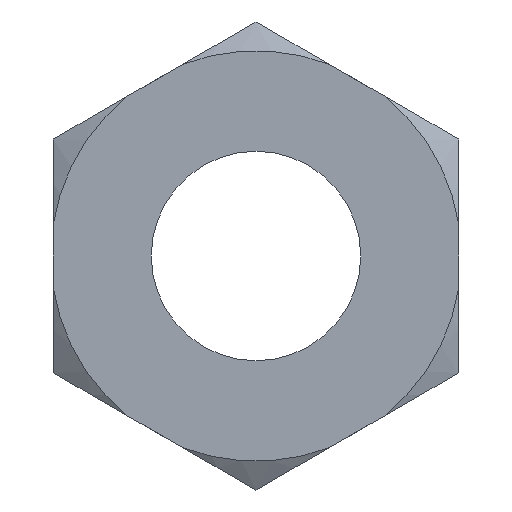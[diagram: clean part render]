
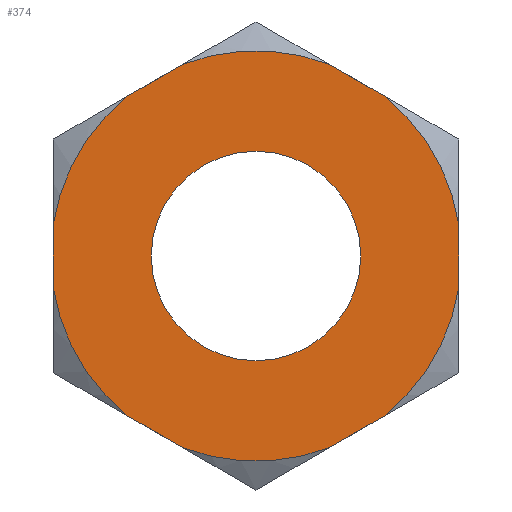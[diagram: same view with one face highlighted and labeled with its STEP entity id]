
A CAD part, left-side view. The second image highlights one B-rep face of the part: STEP entity #374.
In plain terms, the highlighted planar face has unit normal (-1, 0, 0).
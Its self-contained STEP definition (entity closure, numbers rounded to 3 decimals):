
#157=CARTESIAN_POINT('Vertex',(0.,2.067,0.)) ;
#164=CARTESIAN_POINT('Vertex',(0.,-2.067,0.)) ;
#167=CARTESIAN_POINT('Axis2P3D Location',(0.,0.,0.)) ;
#179=CARTESIAN_POINT('Axis2P3D Location',(0.,0.,0.)) ;
#267=CARTESIAN_POINT('Axis2P3D Location',(0.,0.,0.)) ;
#272=CARTESIAN_POINT('Line Origine',(0.,4.,0.)) ;
#276=CARTESIAN_POINT('Vertex',(0.,4.,-0.634)) ;
#278=CARTESIAN_POINT('Vertex',(0.,4.,0.634)) ;
#281=CARTESIAN_POINT('Axis2P3D Location',(0.,0.,0.)) ;
#285=CARTESIAN_POINT('Vertex',(0.,2.549,-3.147)) ;
#288=CARTESIAN_POINT('Line Origine',(0.,2.,-3.464)) ;
#292=CARTESIAN_POINT('Vertex',(0.,1.451,-3.781)) ;
#295=CARTESIAN_POINT('Axis2P3D Location',(0.,0.,0.)) ;
#299=CARTESIAN_POINT('Vertex',(0.,-1.451,-3.781)) ;
#302=CARTESIAN_POINT('Line Origine',(0.,-2.,-3.464)) ;
#306=CARTESIAN_POINT('Vertex',(0.,-2.549,-3.147)) ;
#309=CARTESIAN_POINT('Axis2P3D Location',(0.,0.,0.)) ;
#313=CARTESIAN_POINT('Vertex',(0.,-4.,-0.634)) ;
#316=CARTESIAN_POINT('Line Origine',(0.,-4.,0.)) ;
#320=CARTESIAN_POINT('Vertex',(0.,-4.,0.634)) ;
#323=CARTESIAN_POINT('Axis2P3D Location',(0.,0.,0.)) ;
#327=CARTESIAN_POINT('Vertex',(0.,-2.549,3.147)) ;
#330=CARTESIAN_POINT('Line Origine',(0.,-2.,3.464)) ;
#334=CARTESIAN_POINT('Vertex',(0.,-1.451,3.781)) ;
#337=CARTESIAN_POINT('Axis2P3D Location',(0.,0.,0.)) ;
#341=CARTESIAN_POINT('Vertex',(0.,1.451,3.781)) ;
#344=CARTESIAN_POINT('Line Origine',(0.,2.,3.464)) ;
#348=CARTESIAN_POINT('Vertex',(0.,2.549,3.147)) ;
#351=CARTESIAN_POINT('Axis2P3D Location',(0.,0.,0.)) ;
#274=VECTOR('Line Direction',#273,1.) ;
#290=VECTOR('Line Direction',#289,1.) ;
#304=VECTOR('Line Direction',#303,1.) ;
#318=VECTOR('Line Direction',#317,1.) ;
#332=VECTOR('Line Direction',#331,1.) ;
#346=VECTOR('Line Direction',#345,1.) ;
#168=DIRECTION('Axis2P3D Direction',(1.,0.,0.)) ;
#180=DIRECTION('Axis2P3D Direction',(1.,0.,0.)) ;
#268=DIRECTION('Axis2P3D Direction',(1.,0.,0.)) ;
#269=DIRECTION('Axis2P3D XDirection',(0.,1.,0.)) ;
#273=DIRECTION('Vector Direction',(0.,0.,1.)) ;
#282=DIRECTION('Axis2P3D Direction',(1.,0.,0.)) ;
#289=DIRECTION('Vector Direction',(0.,0.866,0.5)) ;
#296=DIRECTION('Axis2P3D Direction',(1.,0.,0.)) ;
#303=DIRECTION('Vector Direction',(0.,0.866,-0.5)) ;
#310=DIRECTION('Axis2P3D Direction',(1.,0.,0.)) ;
#317=DIRECTION('Vector Direction',(0.,0.,-1.)) ;
#324=DIRECTION('Axis2P3D Direction',(1.,0.,0.)) ;
#331=DIRECTION('Vector Direction',(0.,-0.866,-0.5)) ;
#338=DIRECTION('Axis2P3D Direction',(1.,0.,0.)) ;
#345=DIRECTION('Vector Direction',(0.,-0.866,0.5)) ;
#352=DIRECTION('Axis2P3D Direction',(1.,0.,0.)) ;
#169=AXIS2_PLACEMENT_3D('Circle Axis2P3D',#167,#168,$) ;
#181=AXIS2_PLACEMENT_3D('Circle Axis2P3D',#179,#180,$) ;
#270=AXIS2_PLACEMENT_3D('Plane Axis2P3D',#267,#268,#269) ;
#283=AXIS2_PLACEMENT_3D('Circle Axis2P3D',#281,#282,$) ;
#297=AXIS2_PLACEMENT_3D('Circle Axis2P3D',#295,#296,$) ;
#311=AXIS2_PLACEMENT_3D('Circle Axis2P3D',#309,#310,$) ;
#325=AXIS2_PLACEMENT_3D('Circle Axis2P3D',#323,#324,$) ;
#339=AXIS2_PLACEMENT_3D('Circle Axis2P3D',#337,#338,$) ;
#353=AXIS2_PLACEMENT_3D('Circle Axis2P3D',#351,#352,$) ;
#275=LINE('Line',#272,#274) ;
#291=LINE('Line',#288,#290) ;
#305=LINE('Line',#302,#304) ;
#319=LINE('Line',#316,#318) ;
#333=LINE('Line',#330,#332) ;
#347=LINE('Line',#344,#346) ;
#170=CIRCLE('generated circle',#169,2.067) ;
#182=CIRCLE('generated circle',#181,2.067) ;
#284=CIRCLE('generated circle',#283,4.05) ;
#298=CIRCLE('generated circle',#297,4.05) ;
#312=CIRCLE('generated circle',#311,4.05) ;
#326=CIRCLE('generated circle',#325,4.05) ;
#340=CIRCLE('generated circle',#339,4.05) ;
#354=CIRCLE('generated circle',#353,4.05) ;
#271=PLANE('',#270) ;
#373=FACE_BOUND('',#370,.T.) ;
#171=EDGE_CURVE('',#158,#165,#170,.T.) ;
#183=EDGE_CURVE('',#165,#158,#182,.T.) ;
#280=EDGE_CURVE('',#277,#279,#275,.T.) ;
#287=EDGE_CURVE('',#277,#286,#284,.F.) ;
#294=EDGE_CURVE('',#293,#286,#291,.T.) ;
#301=EDGE_CURVE('',#293,#300,#298,.F.) ;
#308=EDGE_CURVE('',#307,#300,#305,.T.) ;
#315=EDGE_CURVE('',#307,#314,#312,.F.) ;
#322=EDGE_CURVE('',#321,#314,#319,.T.) ;
#329=EDGE_CURVE('',#321,#328,#326,.F.) ;
#336=EDGE_CURVE('',#335,#328,#333,.T.) ;
#343=EDGE_CURVE('',#335,#342,#340,.F.) ;
#350=EDGE_CURVE('',#349,#342,#347,.T.) ;
#355=EDGE_CURVE('',#349,#279,#354,.F.) ;
#357=ORIENTED_EDGE('',*,*,#280,.F.) ;
#358=ORIENTED_EDGE('',*,*,#287,.T.) ;
#359=ORIENTED_EDGE('',*,*,#294,.F.) ;
#360=ORIENTED_EDGE('',*,*,#301,.T.) ;
#361=ORIENTED_EDGE('',*,*,#308,.F.) ;
#362=ORIENTED_EDGE('',*,*,#315,.T.) ;
#363=ORIENTED_EDGE('',*,*,#322,.F.) ;
#364=ORIENTED_EDGE('',*,*,#329,.T.) ;
#365=ORIENTED_EDGE('',*,*,#336,.F.) ;
#366=ORIENTED_EDGE('',*,*,#343,.T.) ;
#367=ORIENTED_EDGE('',*,*,#350,.F.) ;
#368=ORIENTED_EDGE('',*,*,#355,.T.) ;
#371=ORIENTED_EDGE('',*,*,#183,.T.) ;
#372=ORIENTED_EDGE('',*,*,#171,.T.) ;
#356=EDGE_LOOP('',(#357,#358,#359,#360,#361,#362,#363,#364,#365,#366,#367,#368)) ;
#370=EDGE_LOOP('',(#371,#372)) ;
#158=VERTEX_POINT('',#157) ;
#165=VERTEX_POINT('',#164) ;
#277=VERTEX_POINT('',#276) ;
#279=VERTEX_POINT('',#278) ;
#286=VERTEX_POINT('',#285) ;
#293=VERTEX_POINT('',#292) ;
#300=VERTEX_POINT('',#299) ;
#307=VERTEX_POINT('',#306) ;
#314=VERTEX_POINT('',#313) ;
#321=VERTEX_POINT('',#320) ;
#328=VERTEX_POINT('',#327) ;
#335=VERTEX_POINT('',#334) ;
#342=VERTEX_POINT('',#341) ;
#349=VERTEX_POINT('',#348) ;
#374=ADVANCED_FACE('Body.2',(#369,#373),#271,.F.) ;
#369=FACE_OUTER_BOUND('',#356,.T.) ;
